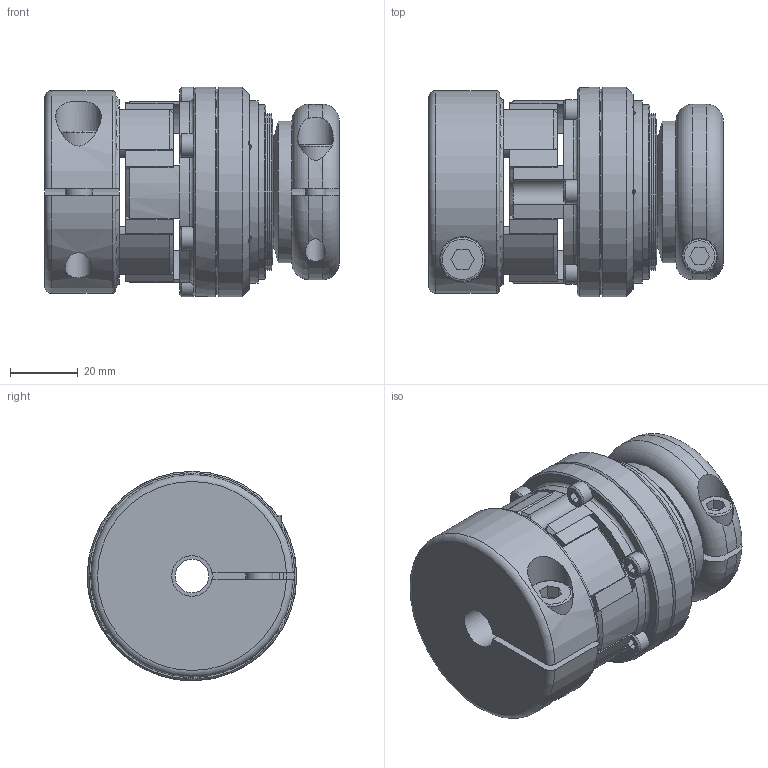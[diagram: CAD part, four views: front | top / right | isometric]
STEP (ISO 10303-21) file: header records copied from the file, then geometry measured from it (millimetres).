
FILE_DESCRIPTION(/* description */ ('Unknown'),/* implementation_level */ '2;1');
FILE_NAME(/* name */ 'SKVA-EK 38',/* time_stamp */ '2025-02-13T08:50:36+01:00',/* author */ ('Unknown'),/* organization */ ('Unknown'),/* preprocessor_version */ 'ST-DEVELOPER v18.102',/* originating_system */ 'Solid Edge',/* authorisation */ 'Unknown');
FILE_SCHEMA (('AUTOMOTIVE_DESIGN {1 0 10303 214 3 1 1}'));
Length unit declared in the file: millimetre
Products named in the file (1): SKVA-EK  38
Bounding box: 87.2 x 62 x 62 mm (x, y, z)
Volume: 186433.2 mm3; surface area: 43960.5 mm2
Topology: 2 solids, 4 shells, 321 faces, 846 edges, 537 vertices
Faces by surface type: plane 129, cylinder 74, bspline 70, cone 35, torus 13
Full cylindrical faces by diameter (mm): 3.242 x6, 6 x3, 7 x6, 8 x3, 10 x2, 10.5 x1, 12.5 x1, 13 x1, 13.5 x1, 42 x1, 51.7 x1, 54 x1, 62 x2
Entity records: 11953 total; most frequent: CARTESIAN_POINT 2912, ORIENTED_EDGE 1544, DIRECTION 1292, EDGE_CURVE 772, VERTEX_POINT 513, AXIS2_PLACEMENT_3D 496, EDGE_LOOP 407, FACE_BOUND 407
